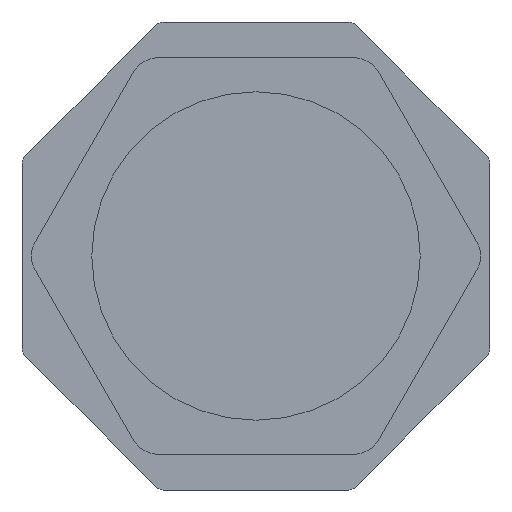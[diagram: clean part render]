
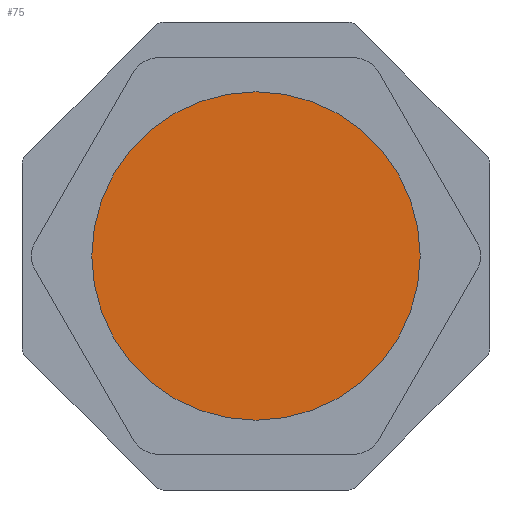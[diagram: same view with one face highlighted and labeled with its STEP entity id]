
A CAD part, left-side view. The second image highlights one B-rep face of the part: STEP entity #75.
In plain terms, the highlighted planar face has unit normal (-1, 0, 0).
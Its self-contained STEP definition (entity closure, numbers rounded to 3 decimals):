
#75=ADVANCED_FACE('',(#991),#993,.T.);
#991=FACE_BOUND('',#992,.T.);
#992=EDGE_LOOP('',(#1761));
#993=PLANE('',#994);
#994=AXIS2_PLACEMENT_3D('',#995,#996,#997);
#995=CARTESIAN_POINT('',(279.849,159.202,-6.8));
#996=DIRECTION('',(-1.,0.,0.));
#997=DIRECTION('',(0.,0.,1.));
#1761=ORIENTED_EDGE('',*,*,#2309,.T.);
#2309=EDGE_CURVE('',#2640,#2640,#2641,.T.);
#2640=VERTEX_POINT('',#3243);
#2641=CIRCLE('',#3244,40.);
#3243=CARTESIAN_POINT('',(279.849,119.202,-6.8));
#3244=AXIS2_PLACEMENT_3D('',#3245,#3246,#3247);
#3245=CARTESIAN_POINT('',(279.849,159.202,-6.8));
#3246=DIRECTION('',(-1.,0.,0.));
#3247=DIRECTION('',(0.,-1.,0.));
